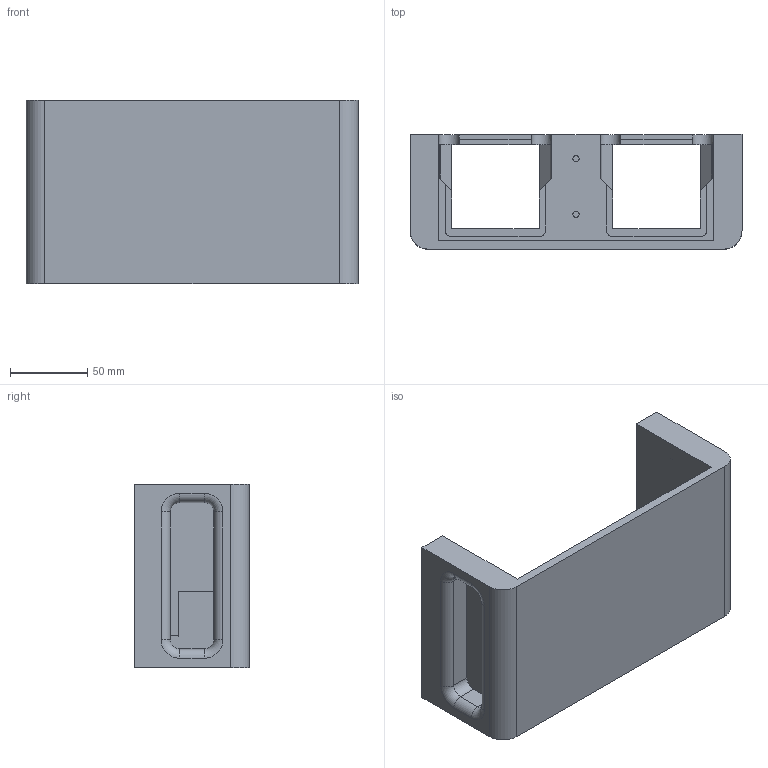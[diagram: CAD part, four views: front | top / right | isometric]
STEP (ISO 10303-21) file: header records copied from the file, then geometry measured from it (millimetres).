
FILE_DESCRIPTION(('Open CASCADE Model'),'2;1');
FILE_NAME('Open CASCADE Shape Model','1970-01-01T00:00:00',('Author'),( 'Open CASCADE'),'Open CASCADE STEP processor 7.8','Open CASCADE 7.8' ,'Unknown');
FILE_SCHEMA(('AUTOMOTIVE_DESIGN { 1 0 10303 214 1 1 1 1 }'));
Length unit declared in the file: millimetre
Products named in the file (2): Open CASCADE STEP translator 7.8 5; enclosure-pump-cartridge
Assembly tree (1 placements, depth 2):
  Open CASCADE STEP translator 7.8 5
    enclosure-pump-cartridge
Bounding box: 215 x 74.27 x 118.98 mm (x, y, z)
Volume: 589628.7 mm3; surface area: 125414.3 mm2
Topology: 1 solids, 1 shells, 126 faces, 350 edges, 228 vertices
Faces by surface type: plane 90, cylinder 24, torus 8, bspline 4
Full cylindrical faces by diameter (mm): 4 x2
Entity records: 8631 total; most frequent: CARTESIAN_POINT 1822, DIRECTION 1188, LINE 798, VECTOR 798, ORIENTED_EDGE 700, PCURVE 700, DEFINITIONAL_REPRESENTATION 700, EDGE_CURVE 350
